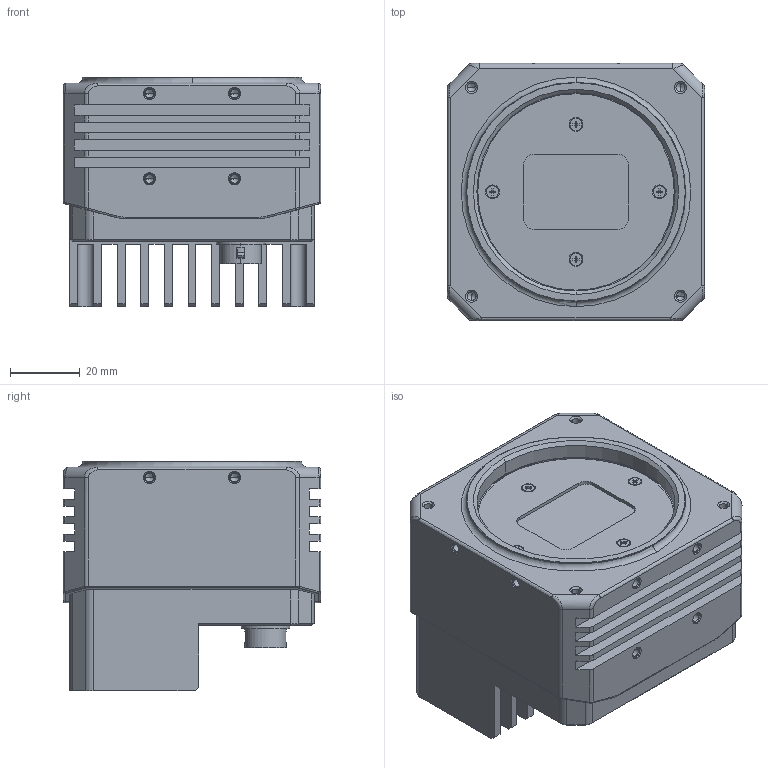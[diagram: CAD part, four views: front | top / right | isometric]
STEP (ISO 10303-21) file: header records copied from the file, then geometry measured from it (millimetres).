
FILE_DESCRIPTION((''),'2;1');
FILE_NAME('MV-CH310-10TM-M58','2021-12-07T14:13:59',('wangyijun6'),(''),'CREO PARAMETRIC BY PTC INC, 2017260','CREO PARAMETRIC BY PTC INC, 2017260','');
FILE_SCHEMA(('CONFIG_CONTROL_DESIGN'));
Length unit declared in the file: millimetre
Products named in the file (1): MV-CH310-10TM-M58
Bounding box: 74 x 74 x 66.13 mm (x, y, z)
Volume: 238817.8 mm3; surface area: 55525.9 mm2
Topology: 1 solids, 35 shells, 1221 faces, 3205 edges, 2053 vertices
Faces by surface type: plane 558, cylinder 396, cone 200, bspline 35, torus 30, sphere 2
Entity records: 39993 total; most frequent: CARTESIAN_POINT 9481, DIRECTION 6587, ORIENTED_EDGE 6238, EDGE_CURVE 3147, AXIS2_PLACEMENT_3D 2411, VERTEX_POINT 2053, VECTOR 1765, LINE 1765
